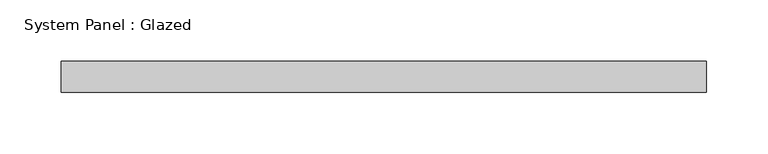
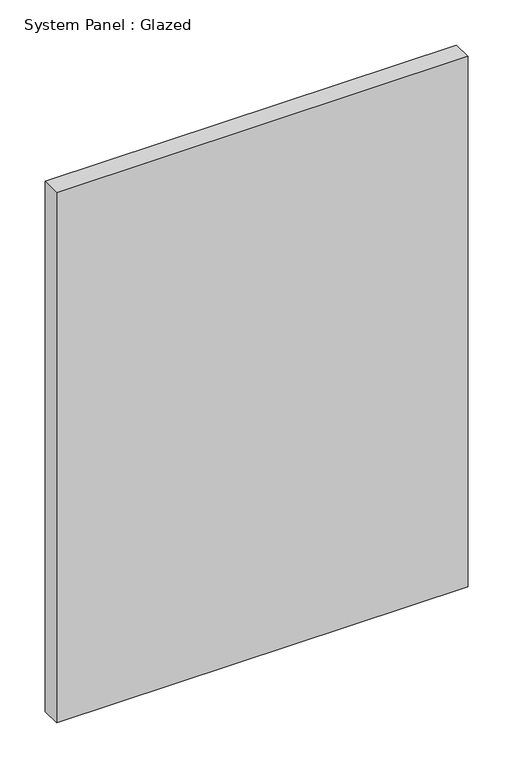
"""IFC4 building model written with IfcOpenShell, lengths in millimetres: plate geometry, System Panel : Glazed."""

from ifc_helpers import new_model, si_unit, origin, origin_with_axes, place, context, project, spatial, polyline, outline, extrude, source, transform, mapped, element, save


def system_panel_glazed_6635dc3f(model_context):
    return source(origin(), model_context, "Body", "SweptSolid", [
        extrude(outline(polyline([(263.525, 19.05), (-263.525, 19.05), (-263.525, 44.45), (263.525, 44.45), (263.525, 19.05)])), origin_with_axes(), (0.0, 0.0, 1.0), 717.55),
    ])


if __name__ == "__main__":
    model = new_model("IFC4")
    model_context = context("Model", 3, world=origin())
    ifc_project = project(units=[si_unit("LENGTHUNIT", "METRE", prefix="MILLI")], contexts=[model_context])
    site = spatial("IfcSite", under=ifc_project)
    building = spatial("IfcBuilding", under=site)
    placement = place(None, origin())
    system_panel_glazed_shape = system_panel_glazed_6635dc3f(model_context)
    element("IfcPlate", 1, ObjectType="System Panel : Glazed", at=placement, inside=building, context=model_context, shape_type="MappedRepresentation", body=[
        mapped(system_panel_glazed_shape, transform((0.0, 0.0, 0.0), x_axis=(1.0, 0.0, 0.0), y_axis=(0.0, 1.0, 0.0), z_axis=(0.0, 0.0, 1.0))),
    ])
    save(model, "model.ifc")
